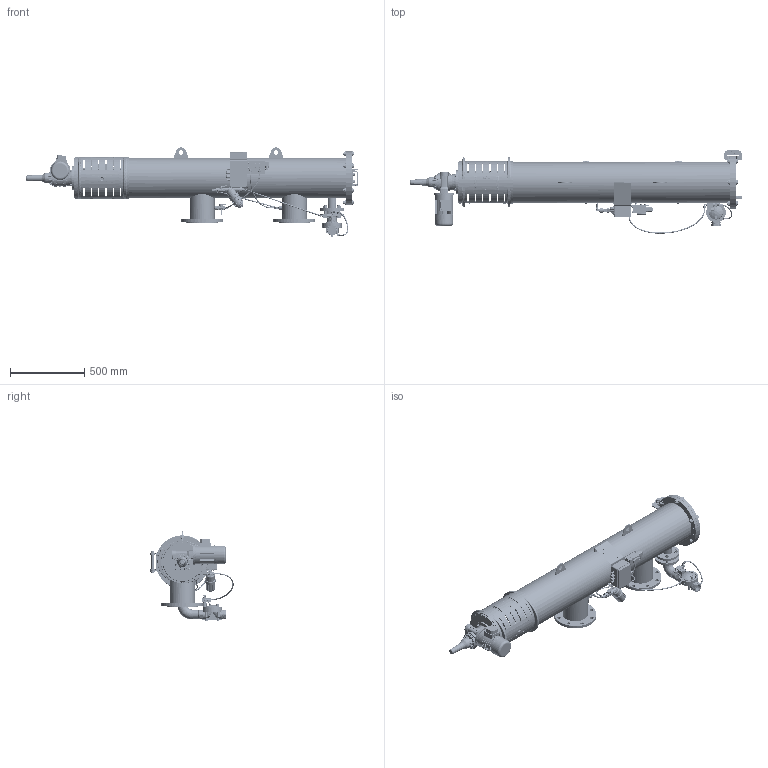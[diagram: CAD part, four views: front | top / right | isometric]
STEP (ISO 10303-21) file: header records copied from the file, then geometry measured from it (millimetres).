
FILE_DESCRIPTION (( 'STEP AP214' ), '1' );
FILE_NAME ('041045-000025.STEP', '2023-02-07T12:44:26', ( '' ), ( '' ), 'SwSTEP 2.0', 'SolidWorks 2019', '' );
FILE_SCHEMA (( 'AUTOMOTIVE_DESIGN' ));
Length unit declared in the file: millimetre
Products named in the file (1): 041045-000025
Bounding box: 2232.82 x 559.97 x 600.36 mm (x, y, z)
Volume: 22740586.5 mm3; surface area: 6443613.2 mm2
Topology: 238 solids, 244 shells, 12053 faces, 29771 edges, 18601 vertices
Faces by surface type: plane 6895, cylinder 2362, bspline 1471, cone 857, torus 383, sphere 85
Full cylindrical faces by diameter (mm): 1.2 x10, 2 x2, 2.381 x2, 3 x2, 3.141 x1, 3.5 x5, 3.9 x4, 4 x21, 4.166 x2, 4.2 x1, 4.3 x1, 4.4 x1, 4.7 x2, 4.75 x12, 4.762 x1, 4.763 x1, 4.773 x5, 4.917 x2, 5 x18, 5.7 x9, 6 x25, 6.2 x3, 6.5 x14, 6.6 x3, 6.858 x2, 7 x10, 7.137 x20, 7.187 x1, 7.5 x2, 7.95 x10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
Entity records: 617233 total; most frequent: CARTESIAN_POINT 223802, ORIENTED_EDGE 55554, DIRECTION 48289, EDGE_CURVE 27777, VERTEX_POINT 18156, AXIS2_PLACEMENT_3D 17613, EDGE_LOOP 14691, VECTOR 13063
